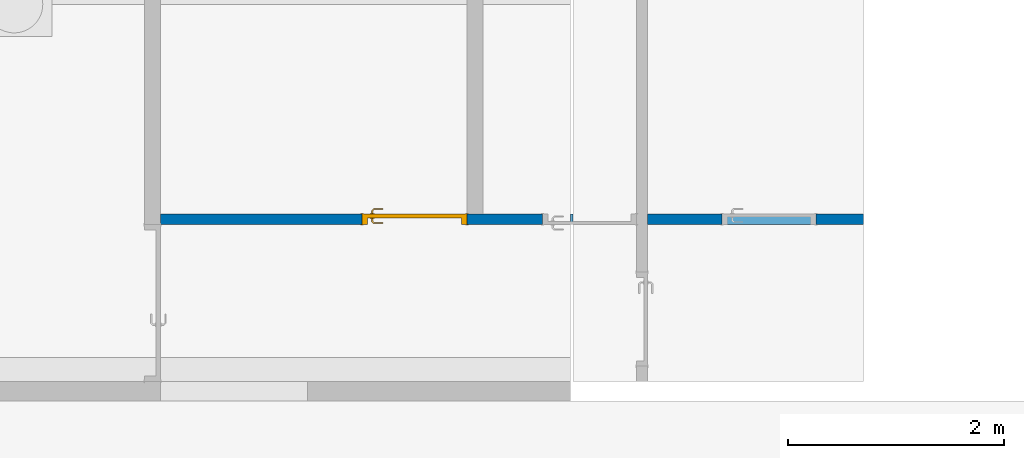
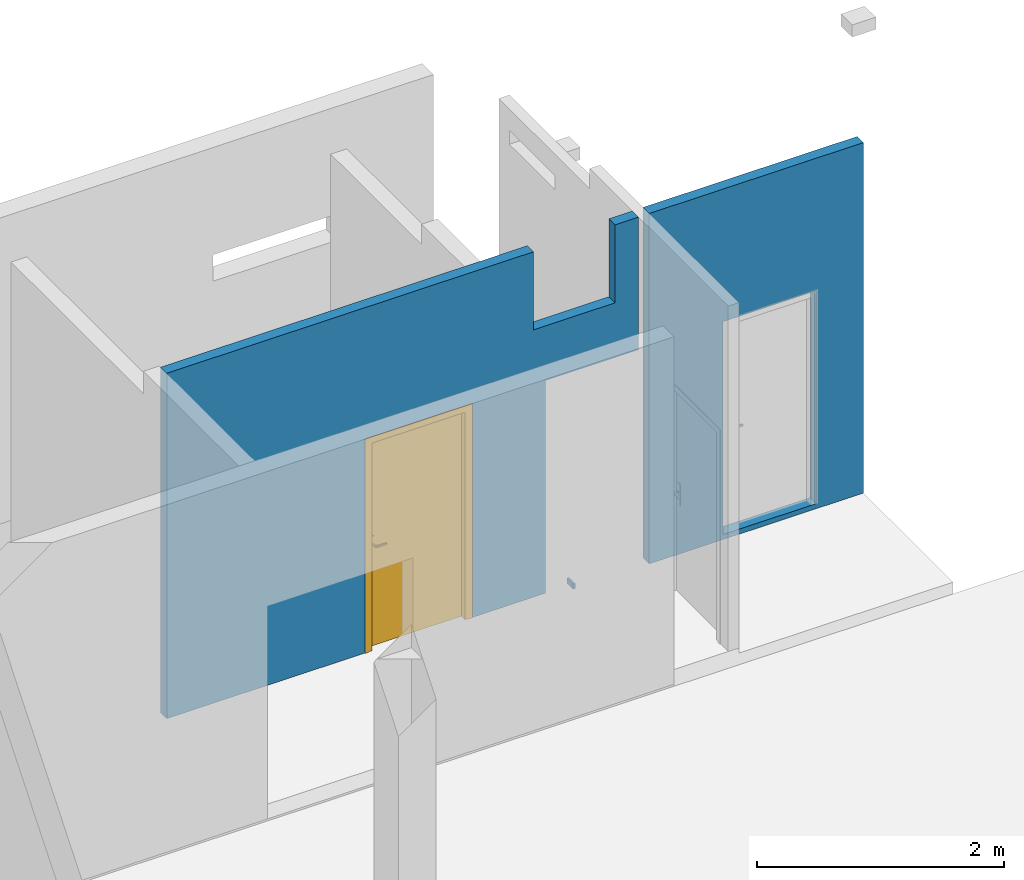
# One storey, part 23 of 29: 1 door, 1 wall, 3 openings.
"""IFC2X3 building model written with IfcOpenShell, lengths in centimetres."""

from ifc_helpers import new_model, entity, si_unit, converted_unit, derived_unit, direction, frame, frame_2d, origin, place, context, subcontext, project, spatial, rectangle, extrude, faceted_brep, source, transform, mapped, material, material_list, layer, layer_set, type_object, type_shapes, element, fill, save


model = new_model("IFC2X3")

# Units and contexts
model_context = context("Model", 3, precision=0.001, world=origin(), true_north=direction((6.12303176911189e-17, 1.0)))
body_context = subcontext(model_context, "Body", "Model", "MODEL_VIEW")
ifc_project = project(units=[si_unit("LENGTHUNIT", "METRE", prefix="CENTI"), si_unit("AREAUNIT", "SQUARE_METRE"), si_unit("VOLUMEUNIT", "CUBIC_METRE"), converted_unit("PLANEANGLEUNIT", "DEGREE", entity("IfcRatioMeasure", 0.0174532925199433), si_unit("PLANEANGLEUNIT", "RADIAN"), dimensions=[0, 0, 0, 0, 0, 0, 0]), si_unit("MASSUNIT", "GRAM", prefix="KILO"), derived_unit("MASSDENSITYUNIT", [(si_unit("MASSUNIT", "GRAM", prefix="KILO"), 1), (si_unit("LENGTHUNIT", "METRE"), -3)]), si_unit("TIMEUNIT", "SECOND"), si_unit("FREQUENCYUNIT", "HERTZ"), si_unit("THERMODYNAMICTEMPERATUREUNIT", "DEGREE_CELSIUS"), derived_unit("THERMALTRANSMITTANCEUNIT", [(si_unit("MASSUNIT", "GRAM", prefix="KILO"), 1), (si_unit("THERMODYNAMICTEMPERATUREUNIT", "KELVIN"), -1), (si_unit("TIMEUNIT", "SECOND"), -3)]), derived_unit("VOLUMETRICFLOWRATEUNIT", [(si_unit("LENGTHUNIT", "METRE"), 3), (si_unit("TIMEUNIT", "SECOND"), -1)]), si_unit("ELECTRICCURRENTUNIT", "AMPERE"), si_unit("ELECTRICVOLTAGEUNIT", "VOLT"), si_unit("POWERUNIT", "WATT"), si_unit("FORCEUNIT", "NEWTON"), si_unit("ILLUMINANCEUNIT", "LUX"), si_unit("LUMINOUSFLUXUNIT", "LUMEN"), si_unit("LUMINOUSINTENSITYUNIT", "CANDELA"), derived_unit("USERDEFINED", [(si_unit("MASSUNIT", "GRAM", prefix="KILO"), -1), (si_unit("LENGTHUNIT", "METRE"), -2), (si_unit("TIMEUNIT", "SECOND"), 3), (si_unit("LUMINOUSFLUXUNIT", "LUMEN"), 1)]), derived_unit("LINEARVELOCITYUNIT", [(si_unit("LENGTHUNIT", "METRE"), 1), (si_unit("TIMEUNIT", "SECOND"), -1)]), si_unit("PRESSUREUNIT", "PASCAL"), derived_unit("USERDEFINED", [(si_unit("LENGTHUNIT", "METRE"), -2), (si_unit("MASSUNIT", "GRAM", prefix="KILO"), 1), (si_unit("TIMEUNIT", "SECOND"), -2)])], contexts=[model_context])

# Site, building, storey
site_placement = place(None, origin())
site = spatial("IfcSite", under=ifc_project, at=site_placement, Name="Default", CompositionType="ELEMENT")
building_placement = place(site_placement, origin())
building = spatial("IfcBuilding", under=site, at=building_placement, Name="CAGE 03", CompositionType="ELEMENT")
storey_placement = place(building_placement, frame((0.0, 0.0, -26.0)))
storey = spatial("IfcBuildingStorey", under=building, at=storey_placement, Name="+3.74", CompositionType="ELEMENT", Elevation=-26.0000000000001)

# Wall, openings, door
ifc_material_1 = material(Name="Bloc béton")
ifc_layer = layer(ifc_material_1, 10.0)
ifc_layer_set = layer_set([ifc_layer], Name="Mur de base:Int. Parpaing 100 mm")
wall_type = type_object("IfcWallType", Name="Mur de base:Int. Parpaing 100 mm", PredefinedType="STANDARD", material=ifc_layer_set)
wall_placement = place(storey_placement, frame((8407.86582014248, 5054.6606660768, -5.0)))
wall = element("IfcWall", 1, at=wall_placement, inside=storey, type_object=wall_type, Name="Mur de base:Int. Parpaing 100 mm", ObjectType="Mur de base:Int. Parpaing 100 mm", context=body_context, shape_type="Brep", body=[
    faceted_brep([(379.500000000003, -5.0, 0.0), (381.500000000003, -5.0, 0.0), (381.500000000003, -5.0, 5.0), (379.500000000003, -5.0, 5.0), (381.500000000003, 5.0, 5.0), (379.500000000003, 5.0, 5.0), (379.500000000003, 5.0, 0.0), (381.500000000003, 5.0, 0.0)], [[[0, 1, 2, 3]], [[3, 2, 4, 5]], [[1, 0, 6, 7]], [[2, 1, 7, 4]], [[0, 3, 5, 6]], [[7, 6, 5, 4]]]),
    faceted_brep([(606.5, 5.0, 5.0), (606.5, 5.0, 215.0), (519.499999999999, 5.0, 215.0), (519.500000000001, 5.0, 5.0), (450.500000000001, 5.0, 0.0), (450.500000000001, 5.0, 346.0), (650.5, 5.0, 346.0), (650.5, 5.0, 0.0), (450.500000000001, -5.0, 346.0), (450.500000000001, -5.0, 0.0), (650.5, -5.0, 346.0), (650.5, -5.0, 0.0), (606.5, -5.0, 5.0), (606.5, -5.0, 215.0), (519.500000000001, -5.0, 215.0), (519.500000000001, -5.0, 5.0)], [[[0, 1, 2, 3], [4, 5, 6, 7]], [[8, 5, 4, 9]], [[10, 11, 7, 6]], [[0, 12, 13, 1]], [[1, 13, 14, 2]], [[15, 3, 2, 14]], [[12, 0, 3, 15]], [[8, 10, 6, 5]], [[7, 11, 9, 4]], [[8, 9, 11, 10], [13, 12, 15, 14]]], outer=[[False, True], [True], [True], [True], [True], [True], [True], [True], [True], [True, False]]),
    faceted_brep([(0.0, -5.0, 346.0), (0.0, 5.0, 346.0), (0.0, 5.0, 5.0), (0.0, -5.0, 5.0), (0.0, -5.0, 212.500000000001), (440.500000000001, -5.0, 346.0), (440.500000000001, -5.0, 215.0), (440.500000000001, 5.0, 215.0), (440.500000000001, 5.0, 346.0), (283.499999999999, -5.0, 215.0), (283.499999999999, 5.0, 215.0), (283.499999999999, 5.0, 5.0), (283.499999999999, -5.0, 5.0), (186.5, -5.0, 215.0), (186.5, 5.0, 215.0), (186.5, -5.0, 5.0), (186.5, 5.0, 5.0), (353.5, -5.0, 215.0), (353.5, 5.0, 215.0), (353.5, -5.0, 5.0), (353.5, 5.0, 5.0), (418.499999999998, -5.0, 269.0), (418.499999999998, -5.0, 346.0), (418.499999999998, 5.0, 346.0), (418.499999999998, 5.0, 269.0), (342.499999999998, -5.0, 269.0), (342.499999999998, 5.0, 269.0), (342.499999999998, -5.0, 346.0), (342.499999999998, 5.0, 346.0), (298.500000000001, 5.0, 346.0), (283.500000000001, 5.0, 346.0), (298.500000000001, 5.0, 5.0)], [[[0, 1, 2, 3, 4]], [[5, 6, 7, 8]], [[9, 10, 11, 12]], [[10, 9, 13, 14]], [[14, 13, 15, 16]], [[17, 18, 7, 6]], [[18, 17, 19, 20]], [[21, 22, 23, 24]], [[25, 21, 24, 26]], [[27, 25, 26, 28]], [[0, 27, 28, 29, 30, 1]], [[15, 3, 2, 16]], [[19, 12, 11, 31, 20]], [[22, 5, 8, 23]], [[8, 7, 18, 20, 31, 11, 10, 14, 16, 2, 1, 30, 29, 28, 26, 24, 23]], [[6, 5, 22, 21, 25, 27, 0, 4, 3, 15, 13, 9, 12, 19, 17]]]),
])
opening_1_placement = place(wall_placement, frame((186.500000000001, -5.0, 5.0)))
opening_1 = element("IfcOpeningElement", 2, at=opening_1_placement, cuts=wall, Name="Int. Simple:HB93:1", ObjectType="Opening", context=body_context, shape_type="SweptSolid", body=[
    extrude(rectangle(XDim=210.000000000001, YDim=96.9999999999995, at=frame_2d((105.000000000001, 48.4999999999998), x_axis=(1.0, 0.0))), frame((0.0, 0.0, 0.0), z_axis=(0.0, 1.0, 0.0), x_axis=(0.0, 0.0, 1.0)), (0.0, 0.0, 1.0), 10.0),
])
opening_2_placement = place(wall_placement, frame((440.500000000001, 5.0, 5.0)))
element("IfcOpeningElement", 3, at=opening_2_placement, cuts=wall, Name="Int. Simple:HB83:1", ObjectType="Opening", context=body_context, shape_type="SweptSolid", body=[
    extrude(rectangle(XDim=210.000000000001, YDim=86.9999999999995, at=frame_2d((105.000000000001, 43.4999999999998), x_axis=(1.0, 0.0))), frame((0.0, 0.0, 0.0), z_axis=(0.0, -1.0, 0.0), x_axis=(0.0, 0.0, 1.0)), (0.0, 0.0, 1.0), 10.0),
])
opening_3_placement = place(wall_placement, frame((519.500000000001, -5.0, 5.0)))
element("IfcOpeningElement", 4, at=opening_3_placement, cuts=wall, Name="Int. Simple:HB83:1", ObjectType="Opening", context=body_context, shape_type="SweptSolid", body=[
    extrude(rectangle(XDim=210.000000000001, YDim=86.9999999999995, at=frame_2d((105.000000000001, 43.4999999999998), x_axis=(1.0, 0.0))), frame((0.0, 0.0, 0.0), z_axis=(0.0, 1.0, 0.0), x_axis=(0.0, 0.0, 1.0)), (0.0, 0.0, 1.0), 10.0),
])
ifc_material_2 = material(Name="Finition Peinture - Blanc satiné")
ifc_material_3 = material(Name="Bois - Panneau de porte")
ifc_material_4 = material(Name="Bois - Cadre de porte")
ifc_material_list_1 = material_list([ifc_material_2, ifc_material_3, ifc_material_4])
ifc_material_list_2 = material_list([ifc_material_2, ifc_material_3, ifc_material_4])
door_style = type_object("IfcDoorStyle", Name="HB93", ConstructionType="NOTDEFINED", OperationType="SINGLE_SWING_RIGHT", ParameterTakesPrecedence=False, Sizeable=False, material=ifc_material_list_2)
shared_shape = source(origin(), body_context, "Body", "Brep", [
    faceted_brep([(96.5000000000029, -0.500000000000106, 87.0), (96.5000000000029, -0.500000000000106, 108.0), (95.535276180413, -0.500000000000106, 108.399601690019), (94.5000000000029, -0.500000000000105, 108.535898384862), (93.4647238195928, -0.500000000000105, 108.399601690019), (92.5000000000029, -0.500000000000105, 108.0), (92.5000000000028, -0.500000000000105, 87.0), (93.4647238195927, -0.500000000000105, 86.6003983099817), (94.5000000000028, -0.500000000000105, 86.464101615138), (95.5352761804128, -0.500000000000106, 86.6003983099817), (96.5000000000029, 0.0, 108.0), (96.5000000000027, 0.0, 87.0), (95.5352761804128, 0.0, 86.6003983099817), (94.5000000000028, 0.0, 86.464101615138), (93.4647238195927, 0.0, 86.6003983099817), (92.5000000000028, 0.0, 87.0), (92.5000000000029, 0.0, 108.0), (93.4647238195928, 0.0, 108.399601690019), (94.5000000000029, 0.0, 108.535898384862), (95.535276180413, 0.0, 108.399601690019)], [[[0, 1, 2, 3, 4, 5, 6, 7, 8, 9]], [[10, 11, 12, 13, 14, 15, 16, 17, 18, 19]], [[9, 12, 11, 0]], [[8, 13, 12, 9]], [[7, 14, 13, 8]], [[7, 6, 15, 14]], [[15, 6, 5, 16]], [[4, 17, 16, 5]], [[3, 18, 17, 4]], [[2, 19, 18, 3]], [[2, 1, 10, 19]], [[11, 10, 1, 0]]]),
    faceted_brep([(96.5000000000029, 4.0, 87.0), (96.5000000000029, 4.0, 108.0), (95.535276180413, 4.0, 108.399601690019), (94.5000000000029, 4.0, 108.535898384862), (93.4647238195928, 4.0, 108.399601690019), (92.500000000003, 4.0, 108.0), (92.5000000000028, 4.0, 87.0), (93.4647238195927, 4.0, 86.6003983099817), (94.5000000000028, 4.0, 86.464101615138), (95.5352761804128, 4.0, 86.6003983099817), (94.5000000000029, 4.49999999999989, 108.535898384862), (95.535276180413, 4.49999999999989, 108.399601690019), (96.5000000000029, 4.49999999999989, 108.0), (96.5000000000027, 4.49999999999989, 87.0), (95.5352761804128, 4.49999999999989, 86.6003983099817), (94.5000000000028, 4.49999999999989, 86.464101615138), (93.4647238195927, 4.49999999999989, 86.6003983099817), (92.5000000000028, 4.49999999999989, 87.0), (92.5000000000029, 4.49999999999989, 108.0), (93.4647238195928, 4.49999999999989, 108.399601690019)], [[[0, 1, 2, 3, 4, 5, 6, 7, 8, 9]], [[10, 11, 12, 13, 14, 15, 16, 17, 18, 19]], [[4, 19, 18, 5]], [[3, 10, 19, 4]], [[2, 11, 10, 3]], [[2, 1, 12, 11]], [[13, 12, 1, 0]], [[9, 14, 13, 0]], [[8, 15, 14, 9]], [[7, 16, 15, 8]], [[7, 6, 17, 16]], [[17, 6, 5, 18]]]),
    faceted_brep([(94.2974701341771, -0.50000000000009, 100.778044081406), (94.7025298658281, -0.500000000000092, 100.778044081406), (95.100000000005, -0.500000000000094, 100.699999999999), (95.100000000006, -0.500000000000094, 99.2999999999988), (94.7025298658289, -0.500000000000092, 99.221955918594), (94.297470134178, -0.50000000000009, 99.2219559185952), (93.9000000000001, -0.500000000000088, 99.3000000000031), (93.9000000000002, -0.500000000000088, 100.7), (94.7025298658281, -3.10045754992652, 100.778044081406), (95.1000000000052, -3.26509507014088, 100.7), (94.2974701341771, -2.93267631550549, 100.778044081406), (92.9298602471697, -4.30028620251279, 100.778044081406), (93.0976414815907, -4.70534593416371, 100.778044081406), (93.9000000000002, -2.76803879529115, 100.7), (93.9000000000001, -2.76803879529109, 99.3000000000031), (94.297470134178, -2.93267631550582, 99.2219559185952), (94.7025298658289, -3.10045754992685, 99.221955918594), (93.0976414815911, -4.70534593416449, 99.221955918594), (92.9298602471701, -4.30028620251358, 99.2219559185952), (95.100000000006, -3.26509507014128, 99.2999999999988), (93.2622790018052, -5.1028160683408, 100.7), (92.7652227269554, -3.90281606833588, 100.7), (92.7652227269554, -3.90281606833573, 99.3000000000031), (93.2622790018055, -5.10281606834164, 99.2999999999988), (84.4981359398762, -5.10281606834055, 100.7), (84.4981359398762, -4.70534593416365, 100.778044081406), (84.4981359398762, -4.30028620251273, 100.778044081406), (84.4981359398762, -3.90281606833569, 100.699999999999), (84.4981359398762, -3.90281606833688, 99.3000000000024), (84.4981359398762, -4.30028620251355, 99.2219559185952), (84.4981359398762, -4.70534593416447, 99.221955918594), (84.4981359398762, -5.10281606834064, 99.2999999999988), (88.7139980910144, -4.5028160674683, 100.78786867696), (89.2692302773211, -5.1028160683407, 100.7), (88.6316793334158, -3.9028160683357, 100.7), (88.631679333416, -3.90281606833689, 99.3000000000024), (88.7139981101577, -4.50281607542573, 99.2121313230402), (89.2692310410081, -5.10281606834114, 99.2999999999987)], [[[0, 1, 2, 3, 4, 5, 6, 7]], [[2, 1, 8, 9]], [[1, 0, 10, 11, 12, 8]], [[0, 7, 13, 10]], [[14, 13, 7, 6]], [[5, 15, 14, 6]], [[5, 4, 16, 17, 18, 15]], [[3, 19, 16, 4]], [[9, 19, 3, 2]], [[9, 8, 12, 20]], [[10, 13, 21, 11]], [[22, 21, 13, 14]], [[14, 15, 18, 22]], [[16, 19, 23, 17]], [[20, 23, 19, 9]], [[24, 25, 26, 27, 28, 29, 30, 31]], [[32, 25, 33]], [[33, 25, 24]], [[33, 20, 12]], [[11, 34, 32]], [[34, 11, 21]], [[27, 26, 34]], [[32, 26, 25]], [[32, 34, 26]], [[32, 33, 12]], [[11, 32, 12]], [[21, 22, 35, 28, 27, 34]], [[36, 29, 35]], [[30, 36, 37]], [[18, 35, 22]], [[29, 28, 35]], [[30, 37, 31]], [[37, 17, 23]], [[36, 17, 37]], [[36, 18, 17]], [[36, 35, 18]], [[29, 36, 30]], [[23, 20, 33, 24, 31, 37]]]),
    faceted_brep([(94.2974701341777, 4.49999999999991, 99.2219559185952), (94.7025298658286, 4.49999999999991, 99.221955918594), (95.1000000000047, 4.4999999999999, 99.2999999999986), (95.1000000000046, 4.4999999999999, 100.7), (94.7025298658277, 4.49999999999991, 100.778044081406), (94.2974701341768, 4.49999999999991, 100.778044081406), (93.8999999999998, 4.49999999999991, 100.7), (93.900000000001, 4.49999999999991, 99.3000000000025), (93.8999999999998, 6.7485204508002, 100.7), (93.8999999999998, 6.74852045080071, 99.3000000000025), (94.2974701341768, 6.91315797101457, 100.778044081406), (94.7025298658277, 7.0809392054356, 100.778044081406), (93.0838906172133, 8.69957845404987, 100.778044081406), (92.9161093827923, 8.29451872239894, 100.778044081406), (95.1000000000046, 7.24557672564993, 100.7), (95.1000000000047, 7.24557672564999, 99.2999999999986), (94.7025298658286, 7.08093920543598, 99.221955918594), (94.2974701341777, 6.91315797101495, 99.2219559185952), (92.9161093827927, 8.29451872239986, 99.2219559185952), (93.0838906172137, 8.69957845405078, 99.221955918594), (92.751471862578, 7.89704858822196, 100.7), (92.7514718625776, 7.89704858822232, 99.3000000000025), (93.2485281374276, 9.09704858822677, 100.7), (93.2485281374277, 9.09704858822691, 99.2999999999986), (84.4954216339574, 8.29451872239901, 100.778044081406), (84.4954216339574, 8.69957845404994, 100.778044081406), (84.4954216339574, 9.09704858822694, 100.7), (84.4954216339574, 9.09704858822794, 99.2999999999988), (84.4954216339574, 8.6995784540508, 99.221955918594), (84.4954216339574, 8.29451872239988, 99.2219559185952), (84.4954216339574, 7.89704858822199, 99.3000000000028), (84.4954216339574, 7.89704858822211, 100.7), (88.6234467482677, 7.89704858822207, 100.7), (88.6234479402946, 7.89704858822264, 99.3000000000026), (88.7057655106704, 8.49704858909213, 100.78786867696), (89.255479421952, 9.09704858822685, 100.7), (89.2554795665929, 9.09704858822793, 99.2999999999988), (88.7057654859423, 8.49704858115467, 99.2121313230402)], [[[0, 1, 2, 3, 4, 5, 6, 7]], [[8, 9, 7, 6]], [[5, 10, 8, 6]], [[5, 4, 11, 12, 13, 10]], [[3, 14, 11, 4]], [[14, 3, 2, 15]], [[2, 1, 16, 15]], [[1, 0, 17, 18, 19, 16]], [[0, 7, 9, 17]], [[20, 21, 9, 8]], [[8, 10, 13, 20]], [[14, 22, 12, 11]], [[23, 22, 14, 15]], [[15, 16, 19, 23]], [[17, 9, 21, 18]], [[24, 25, 26, 27, 28, 29, 30, 31]], [[21, 20, 32, 31, 30, 33]], [[34, 24, 32]], [[25, 34, 35]], [[13, 32, 20]], [[24, 31, 32]], [[25, 35, 26]], [[35, 12, 22]], [[34, 12, 35]], [[34, 13, 12]], [[34, 32, 13]], [[24, 34, 25]], [[22, 23, 36, 27, 26, 35]], [[37, 28, 36]], [[36, 28, 27]], [[36, 23, 19]], [[18, 33, 37]], [[33, 18, 21]], [[30, 29, 33]], [[37, 29, 28]], [[37, 33, 29]], [[37, 36, 19]], [[18, 37, 19]]]),
    faceted_brep([(100.500000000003, 4.0, 206.5), (100.500000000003, 4.0, 0.0), (10.5000000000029, 4.0, 0.0), (10.5000000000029, 4.0, 206.5), (100.500000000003, 0.0, 206.5), (10.5000000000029, 0.0, 206.5), (10.5000000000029, 0.0, 0.0), (100.500000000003, 0.0, 0.0)], [[[0, 1, 2, 3]], [[4, 5, 6, 7]], [[3, 5, 4, 0]], [[2, 6, 5, 3]], [[1, 7, 6, 2]], [[0, 4, 7, 1]]]),
    faceted_brep([(104.0, 0.0, 0.0), (100.500000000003, 0.0, 0.0), (100.500000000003, 4.0, 0.0), (99.0, 4.0, 0.0), (99.0, 10.0, 0.0), (104.0, 10.0, 0.0), (104.0, 10.0, 210.0), (104.0, 0.0, 210.0), (99.0, 10.0, 205.0), (12.0, 10.0, 205.0), (12.0, 10.0, 0.0), (7.0, 10.0, 0.0), (7.0, 10.0, 210.0), (99.0, 4.0, 205.0), (100.500000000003, 4.0, 206.5), (10.5000000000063, 4.0, 206.5), (10.5000000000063, 4.0, 0.0), (12.0, 4.0, 0.0), (12.0, 4.0, 205.0), (100.500000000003, 0.0, 206.5), (7.0, 0.0, 210.0), (7.0, 0.0, 0.0), (10.5000000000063, 0.0, 0.0), (10.5000000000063, 0.0, 206.5)], [[[0, 1, 2, 3, 4, 5]], [[5, 6, 7, 0]], [[4, 8, 9, 10, 11, 12, 6, 5]], [[3, 13, 8, 4]], [[2, 14, 15, 16, 17, 18, 13, 3]], [[1, 19, 14, 2]], [[0, 7, 20, 21, 22, 23, 19, 1]], [[12, 11, 21, 20]], [[21, 11, 10, 17, 16, 22]], [[18, 17, 10, 9]], [[23, 22, 16, 15]], [[6, 12, 20, 7]], [[13, 18, 9, 8]], [[19, 23, 15, 14]]]),
    faceted_brep([(102.500000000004, 10.0, 0.0), (102.500000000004, 10.5000000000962, 0.0), (105.500000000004, 10.5000000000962, 0.0), (105.500000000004, 10.0, 0.0), (105.500000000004, 10.0, 211.500000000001), (5.50000000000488, 10.0, 211.500000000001), (5.50000000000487, 10.0, 0.0), (8.50000000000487, 10.0, 0.0), (8.50000000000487, 10.0, 208.500000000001), (102.500000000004, 10.0, 208.500000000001), (105.500000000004, 10.5000000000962, 211.500000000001), (102.500000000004, 10.5000000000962, 208.500000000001), (8.50000000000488, 10.5000000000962, 208.500000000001), (8.50000000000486, 10.5000000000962, 0.0), (5.50000000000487, 10.5000000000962, 0.0), (5.50000000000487, 10.5000000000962, 211.500000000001)], [[[0, 1, 2, 3]], [[3, 4, 5, 6, 7, 8, 9, 0]], [[2, 10, 4, 3]], [[1, 11, 12, 13, 14, 15, 10, 2]], [[0, 9, 11, 1]], [[7, 6, 14, 13]], [[8, 7, 13, 12]], [[15, 14, 6, 5]], [[10, 15, 5, 4]], [[9, 8, 12, 11]]]),
    faceted_brep([(105.500000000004, -0.5, 0.0), (105.500000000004, -0.5, 211.500000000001), (5.50000000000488, -0.5, 211.500000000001), (5.50000000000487, -0.5, 0.0), (8.50000000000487, -0.5, 0.0), (8.50000000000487, -0.5, 208.500000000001), (102.500000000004, -0.5, 208.500000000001), (102.500000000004, -0.5, 0.0), (105.500000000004, 0.0, 0.0), (105.500000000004, 0.0, 211.500000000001), (102.500000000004, 0.0, 0.0), (102.500000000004, 0.0, 208.500000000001), (8.50000000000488, 0.0, 208.500000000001), (8.50000000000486, 0.0, 0.0), (5.50000000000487, 0.0, 0.0), (5.50000000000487, 0.0, 211.500000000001)], [[[0, 1, 2, 3, 4, 5, 6, 7]], [[8, 9, 1, 0]], [[10, 11, 12, 13, 14, 15, 9, 8]], [[7, 6, 11, 10]], [[5, 4, 13, 12]], [[15, 14, 3, 2]], [[9, 15, 2, 1]], [[6, 5, 12, 11]], [[4, 3, 14, 13]], [[7, 10, 8, 0]]]),
])
type_shapes(door_style, [shared_shape])
door_placement = place(opening_1_placement, frame((104.0, 10.0, 0.0), z_axis=(0.0, 0.0, 1.0), x_axis=(-1.0, 0.0, 0.0)))
door = element("IfcDoor", 5, at=door_placement, inside=storey, type_object=door_style, material=ifc_material_list_1, Name="Int. Simple:HB93", ObjectType="HB93", OverallHeight=210.000000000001, OverallWidth=96.9999999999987, context=body_context, shape_type="MappedRepresentation", body=[
    mapped(shared_shape, transform((0.0, 0.0, 0.0), scale=1.0)),
])
fill(opening_1, door)

save(model, "model.ifc")
